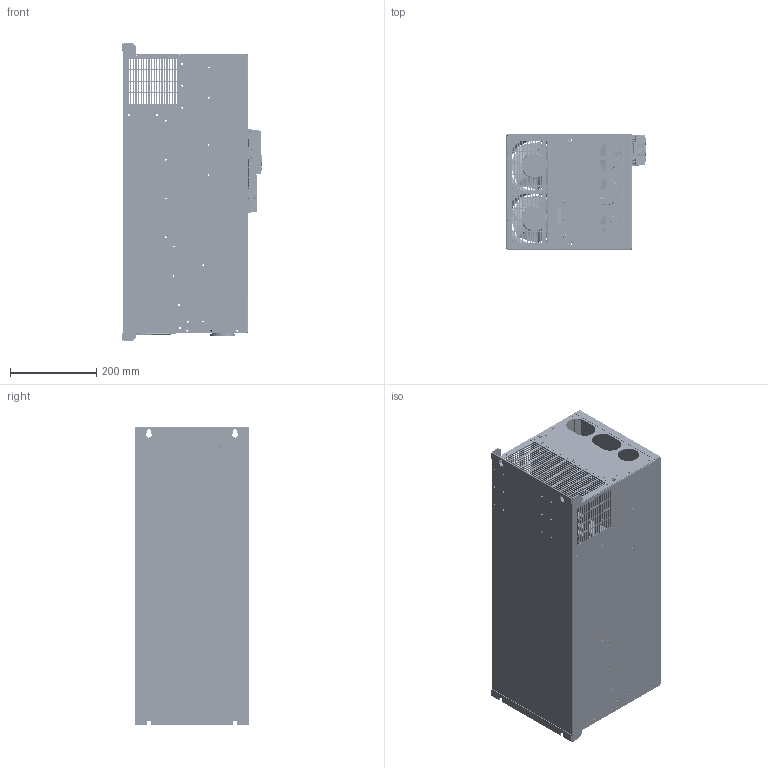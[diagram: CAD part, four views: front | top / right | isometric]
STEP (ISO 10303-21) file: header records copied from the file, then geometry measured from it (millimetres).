
FILE_DESCRIPTION (( 'STEP AP214' ), '1' );
FILE_NAME ('H120-55-75kw.STEP', '2024-12-10T02:54:12', ( '微软用户' ), ( '微软中国' ), 'SwSTEP 2.0', 'SolidWorks 2018', '' );
FILE_SCHEMA (( 'AUTOMOTIVE_DESIGN' ));
Length unit declared in the file: millimetre
Products named in the file (117): PCB諷秶啣-20190318-萇繚啣20190328-1016; 輛盄啣; 諷秶啣郪璃4-20190309-2019031920190328-1016; 瑞圮欶120x120x38-1016_4; 55-75輛盄傷赽啣-20200609-0609; 眊极01-0609; JIANPANZUOGAI_4-2018031820190328-1016; 輛盄諳; M3X3mm腔肣蹟譫-耀撿-20190313-2019031920190328-1016; 瑞圮欶120x120x38-1016_13; H553753-TP-03-20200903; M4压铆螺母-1016_M4压铆螺母; ANNIUZUOKE_26-2018031820190328-1016; 輛瑞啣-0609; 瑞圮欶120x120x38-1016_6; 裔赽蚾饜极-1016; P7AB20V01-S-蕾宒-20210114-1; 假蚾啣-0609; 偌瑩諷秶啣-1016; 瑞圮欶120x120x38-1016_12; JNA340傷赽; H120-55-75kw; m4x12瓣謂揤穩蹟譫翐; B34B-PUDSS-1-20210114-1; M6X16腔蹟譫翐; 菁啣-20190311-2019031920190328-1016; 瑞圮欶120x120x38-1016_14; 55-75kw出线路端子板装配体-0609; 裔1-20200609-0609; 315-400kwKAZUO-34PIN-阨濮-HC-20210120-1-1; m8揤穩櫅譫; 寡蝶-20190309-2019031920190328-1016; 瑞圮欶120x120x38-1016_7; 55-75kw怀堤傷赽啣-0609; 笢潔階裔2 - 55-75kw; 315-400kw蛌遙啣-20200416-HC-20210120-1-1; m5揤穩櫅譫; 阨儒芛-耀撿-20190313-2019031920190328-1016; 瑞圮欶120x120x38-1016_11; 誘盄遠-46-17-19-407010009-1016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
Assembly tree (175 placements, depth 6):
  H120-55-75kw
    眊极爾璃-0609
      H553754-JX-01
        翋极啣
          M4压铆螺母-1016_M4压铆螺母  x10
          眊极01-0609
          崨盄鎢1-0609
          萇蕨ん盓殤蚾饜极  x2
            萇蕨ん盓殤-0609
            M6揤穩蹟譫
        輛盄傷赽盓傅殤-1016  x2
          輛盄傷赽盓傅殤-1016
          M4压铆螺母_M4压铆螺母
        驱动板电源板安装片组件-0609  x4
          驱动板安装板固定件-0609
          M4压铆螺母_M4压铆螺母
      假蚾啣-0609
        假蚾啣-0609
        m4x16瓣謂揤穩蹟譫翐-1016  x3
        m5揤穩櫅譫  x3
        m8揤穩櫅譫  x2
        M4压铆螺母_M4压铆螺母  x6
        M6X16腔蹟譫翐
      輛瑞啣-0609
      輛盄啣
        M4压铆螺母-1016_M4压铆螺母  x2
        輛盄諳
      結瑞え-1016
    瑞圮軞蚾饜极-1016
      瑞圮褲极
        眊极02-1016
      瑞圮蚾饜极-1016  x2
        瑞圮120x120x38-1016
        瑞圮欶120x120x38-1016
          瑞圮欶120x120x38-1016_10
          瑞圮欶120x120x38-1016_3
          瑞圮欶120x120x38-1016_2
          瑞圮欶120x120x38-1016_5
          瑞圮欶120x120x38-1016
          瑞圮欶120x120x38-1016_9
          瑞圮欶120x120x38-1016_8
          瑞圮欶120x120x38-1016_11
          瑞圮欶120x120x38-1016_7
          瑞圮欶120x120x38-1016_14
          瑞圮欶120x120x38-1016_12
          瑞圮欶120x120x38-1016_6
          瑞圮欶120x120x38-1016_13
          瑞圮欶120x120x38-1016_4
    H553753-TP-01-0609
      H553753-TP-01-1016
    H553753-TP-02-20200903
      H553753-TP-02-20200903
    H553753-TP-15-20200903
    H553753-TP-17-20200903
      H553753-TP-17-20200903
    H553753-TP-14-20200903
    裔赽蚾饜极-1016
      裔3-1016
      諷秶耀輸菜啣  x2
      笢潔階裔2 - 55-75kw
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Bounding box: 323.3 x 265 x 690 mm (x, y, z)
Volume: 3058524.1 mm3; surface area: 3203572.8 mm2
Topology: 172 solids, 172 shells, 13805 faces, 36896 edges, 24197 vertices
Faces by surface type: plane 8719, cylinder 3624, bspline 873, cone 370, torus 194, sphere 25
Entity records: 518164 total; most frequent: CARTESIAN_POINT 112299, ORIENTED_EDGE 59886, DIRECTION 53488, EDGE_CURVE 29943, LINE 21070, VECTOR 21070, VERTEX_POINT 19701, AXIS2_PLACEMENT_3D 16209
